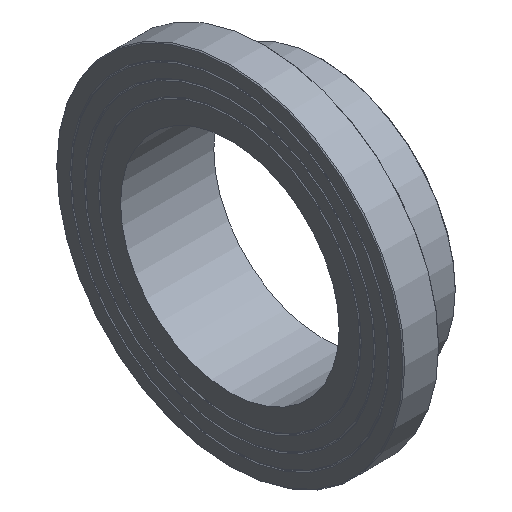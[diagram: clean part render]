
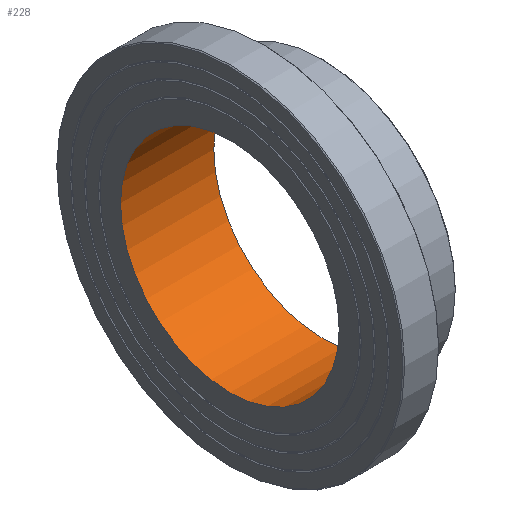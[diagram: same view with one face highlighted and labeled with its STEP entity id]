
A CAD part, isometric view. The second image highlights one B-rep face of the part: STEP entity #228.
In plain terms, the highlighted cylindrical face has radius 184.1 mm (diameter 368.2 mm), a full revolution.
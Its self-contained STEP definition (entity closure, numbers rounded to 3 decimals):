
#33=CYLINDRICAL_SURFACE('',#274,184.1);
#50=ORIENTED_EDGE('',*,*,#79,.F.);
#51=ORIENTED_EDGE('',*,*,#76,.T.);
#76=EDGE_CURVE('',#96,#96,#116,.T.);
#79=EDGE_CURVE('',#99,#99,#119,.T.);
#96=VERTEX_POINT('',#383);
#99=VERTEX_POINT('',#390);
#116=CIRCLE('',#257,184.1);
#119=CIRCLE('',#261,184.1);
#150=EDGE_LOOP('',(#50));
#151=EDGE_LOOP('',(#51));
#190=FACE_BOUND('',#150,.T.);
#191=FACE_BOUND('',#151,.T.);
#228=ADVANCED_FACE('',(#190,#191),#33,.F.);
#257=AXIS2_PLACEMENT_3D('',#382,#303,#304);
#261=AXIS2_PLACEMENT_3D('',#389,#311,#312);
#274=AXIS2_PLACEMENT_3D('',#410,#337,#338);
#303=DIRECTION('',(-1.,0.,0.));
#304=DIRECTION('',(0.,0.,1.));
#311=DIRECTION('',(-1.,0.,0.));
#312=DIRECTION('',(0.,0.,1.));
#337=DIRECTION('',(-1.,0.,0.));
#338=DIRECTION('',(0.,0.,1.));
#382=CARTESIAN_POINT('',(0.,0.,0.));
#383=CARTESIAN_POINT('',(0.,0.,184.1));
#389=CARTESIAN_POINT('',(157.,0.,0.));
#390=CARTESIAN_POINT('',(157.,0.,184.1));
#410=CARTESIAN_POINT('',(60.,0.,0.));
